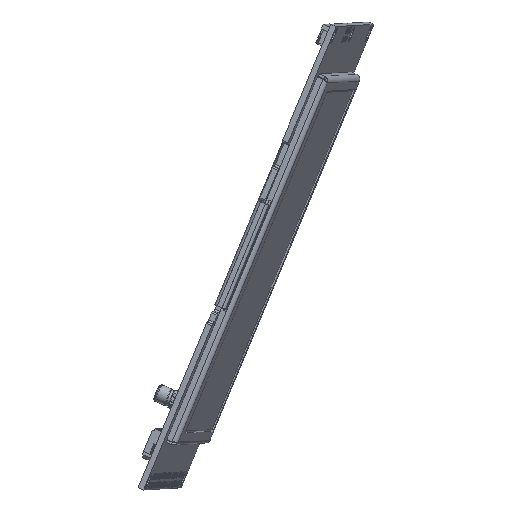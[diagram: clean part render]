
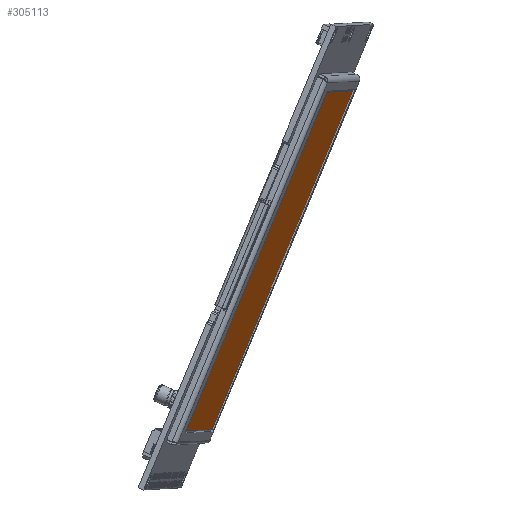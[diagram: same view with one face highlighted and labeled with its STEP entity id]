
A CAD part, front view. The second image highlights one B-rep face of the part: STEP entity #305113.
In plain terms, the highlighted planar face has unit normal (0.914, -0.118, -0.388) as drawn and (0, 0, -1) by its records, which use the part's own axes.
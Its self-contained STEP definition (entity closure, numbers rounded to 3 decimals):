
#2899 = FACE_OUTER_BOUND ( 'NONE', #289311, .T. ) ;
#14932 = LINE ( 'NONE', #86117, #189692 ) ;
#34906 = CARTESIAN_POINT ( 'NONE',  ( 48.45, 30.25, -0.2 ) ) ;
#48727 = DIRECTION ( 'NONE',  ( 0., 0., -1. ) ) ;
#50222 = VECTOR ( 'NONE', #135811, 1000. ) ;
#64588 = CARTESIAN_POINT ( 'NONE',  ( 48.45, -25.4, -0.2 ) ) ;
#65306 = ORIENTED_EDGE ( 'NONE', *, *, #254892, .T. ) ;
#72059 = AXIS2_PLACEMENT_3D ( 'NONE', #194276, #48727, #96267 ) ;
#72924 = EDGE_CURVE ( 'NONE', #108172, #92389, #14932, .T. ) ;
#86117 = CARTESIAN_POINT ( 'NONE',  ( 48.45, 30.25, -0.2 ) ) ;
#90767 = CARTESIAN_POINT ( 'NONE',  ( -48.45, 30.25, -0.2 ) ) ;
#92325 = DIRECTION ( 'NONE',  ( 0., 1., 0. ) ) ;
#92389 = VERTEX_POINT ( 'NONE', #175028 ) ;
#96267 = DIRECTION ( 'NONE',  ( -1., 0., 0. ) ) ;
#97811 = PLANE ( 'NONE',  #72059 ) ;
#106356 = CARTESIAN_POINT ( 'NONE',  ( -48.45, -25.4, -0.2 ) ) ;
#108172 = VERTEX_POINT ( 'NONE', #144549 ) ;
#122405 = VERTEX_POINT ( 'NONE', #244336 ) ;
#129904 = LINE ( 'NONE', #34906, #271402 ) ;
#132183 = ORIENTED_EDGE ( 'NONE', *, *, #147996, .T. ) ;
#135811 = DIRECTION ( 'NONE',  ( -1., 0., 0. ) ) ;
#138685 = VECTOR ( 'NONE', #92325, 1000. ) ;
#142194 = EDGE_CURVE ( 'NONE', #92389, #122405, #129904, .T. ) ;
#144549 = CARTESIAN_POINT ( 'NONE',  ( -48.45, 30.25, -0.2 ) ) ;
#147996 = EDGE_CURVE ( 'NONE', #122405, #279515, #233789, .T. ) ;
#175028 = CARTESIAN_POINT ( 'NONE',  ( 48.45, 30.25, -0.2 ) ) ;
#177302 = DIRECTION ( 'NONE',  ( 0., -1., 0. ) ) ;
#185692 = LINE ( 'NONE', #90767, #138685 ) ;
#189692 = VECTOR ( 'NONE', #299590, 1000. ) ;
#194276 = CARTESIAN_POINT ( 'NONE',  ( 0., 0., -0.2 ) ) ;
#199150 = ORIENTED_EDGE ( 'NONE', *, *, #142194, .T. ) ;
#233789 = LINE ( 'NONE', #64588, #50222 ) ;
#244336 = CARTESIAN_POINT ( 'NONE',  ( 48.45, -25.4, -0.2 ) ) ;
#254892 = EDGE_CURVE ( 'NONE', #279515, #108172, #185692, .T. ) ;
#265100 = ORIENTED_EDGE ( 'NONE', *, *, #72924, .T. ) ;
#271402 = VECTOR ( 'NONE', #177302, 1000. ) ;
#279515 = VERTEX_POINT ( 'NONE', #106356 ) ;
#289311 = EDGE_LOOP ( 'NONE', ( #199150, #132183, #65306, #265100 ) ) ;
#299590 = DIRECTION ( 'NONE',  ( 1., 0., 0. ) ) ;
#305113 = ADVANCED_FACE ( 'NONE', ( #2899 ), #97811, .T. ) ;
